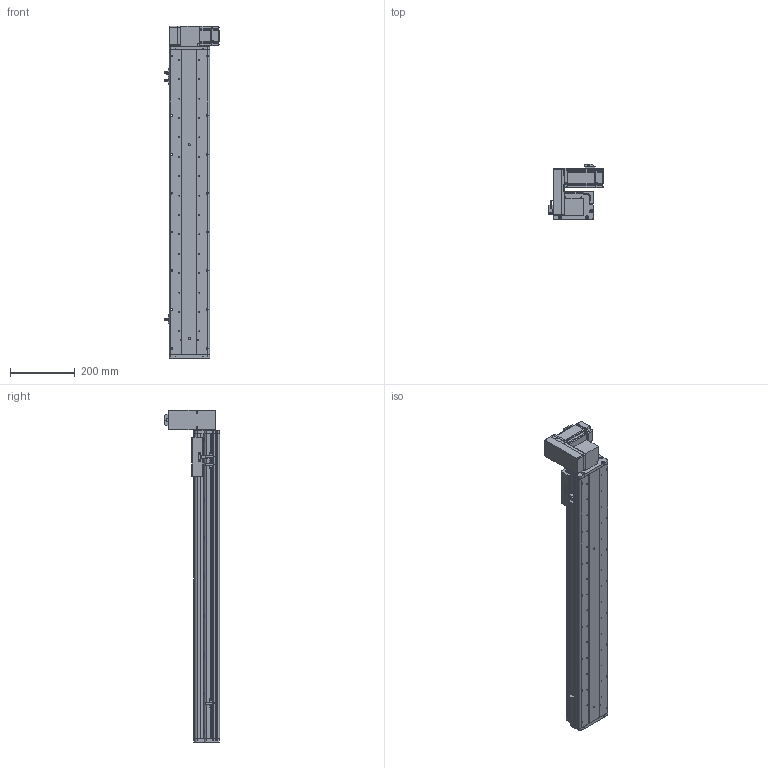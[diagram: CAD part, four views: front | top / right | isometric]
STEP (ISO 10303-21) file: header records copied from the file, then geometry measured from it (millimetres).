
FILE_DESCRIPTION (( 'STEP AP214' ), '1' );
FILE_NAME ('KSD125B-S750-MRU-CM.STEP', '2017-10-21T07:33:26', ( '微软用户' ), ( '微软中国' ), 'SwSTEP 2.0', 'SolidWorks 2014', '' );
FILE_SCHEMA (( 'AUTOMOTIVE_DESIGN' ));
Length unit declared in the file: millimetre
Products named in the file (17): 125模组同步带-尾端板1; KSD125模组同步带-滑动座1; KSD125B-S750-MRU-CM; 悵誘欶奻狟殏; HTPA30S3M150_A_H6_a佪裝蚚; HTPA30S3M150_A_H6_a萇儂蚚; 100宽马达安装板连板上下折丝杆同步带; KSD125模组750行程同步带-防尘盖; 125模组750行程同步带-底板; MHMD042G1CA_2_03; KSD125模组同步带-防撞垫2; 覜茼え68遵圉猾敕; U倰嫖萇假蚾璃; U倰嫖萇EEㄜSX672; KSD125模组同步带-防撞垫1; 100宽马达安装板同步带右; 前端板-125宽模组同步带
Assembly tree (20 placements, depth 2):
  KSD125B-S750-MRU-CM
    KSD125模组同步带-滑动座1
    125模组同步带-尾端板1
    前端板-125宽模组同步带
    100宽马达安装板同步带右
    KSD125模组同步带-防撞垫1
    U倰嫖萇EEㄜSX672  x3
    U倰嫖萇假蚾璃  x3
    覜茼え68遵圉猾敕
    KSD125模组同步带-防撞垫2
    MHMD042G1CA_2_03
    125模组750行程同步带-底板
    KSD125模组750行程同步带-防尘盖
    100宽马达安装板连板上下折丝杆同步带
    HTPA30S3M150_A_H6_a萇儂蚚
    HTPA30S3M150_A_H6_a佪裝蚚
    悵誘欶奻狟殏
Bounding box: 168.7 x 170.5 x 1027 mm (x, y, z)
Volume: 3259295.6 mm3; surface area: 1109855.1 mm2
Topology: 19 solids, 22 shells, 2275 faces, 6589 edges, 4354 vertices
Faces by surface type: cylinder 1424, plane 724, cone 105, bspline 22
Entity records: 80843 total; most frequent: CARTESIAN_POINT 15963, DIRECTION 12570, ORIENTED_EDGE 11698, EDGE_CURVE 5927, AXIS2_PLACEMENT_3D 4857, VERTEX_POINT 3946, VECTOR 2856, LINE 2856
